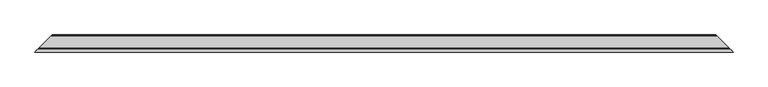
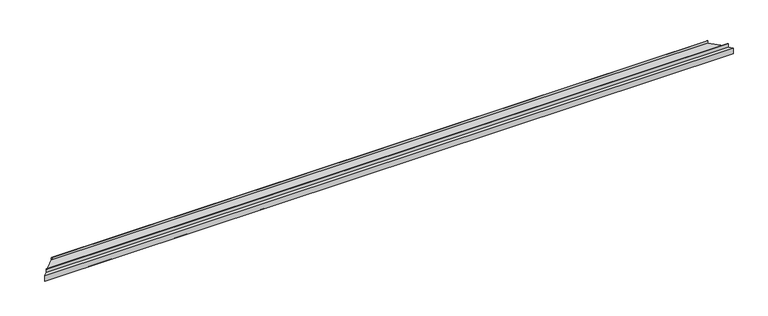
"""IFC4 building model written with IfcOpenShell, lengths in millimetres: proxy geometry, АК1_1 Примыкание к фундаментной балке : АК1_1 Примыкание к фундаментной балке."""

import ifcopenshell
import ifcopenshell.guid

model = None  # the IFC model being written
_history = None  # IfcOwnerHistory: only IFC2X3 demands one
_inside = {}  # id of a spatial element -> (the spatial element, [elements in it])
_under = {}  # id of a project, library or spatial element -> (it, [spatial elements below it])
_declared = {}  # id of a project -> (the project, [libraries it declares])
_typed = {}  # id of a type object -> (the type object, [elements of that type])
_made_of = {}  # id of a material, layer set ... -> (it, [elements and type objects made of it])


def new_model(schema):
    """Start an empty IFC model of exactly this schema.

    Asked for "IFC4X3", IfcOpenShell would pick the latest addendum, in which some entities
    have other attributes; the version numbers below select the first issue.
    IFC2X3 requires an IfcOwnerHistory on every rooted entity: one is made here for all.
    """
    global model, _history
    if schema == "IFC4X3":
        model = ifcopenshell.file(schema_version=(4, 3, 0, 0))
    else:
        model = ifcopenshell.file(schema=schema)
    _inside.clear()
    _under.clear()
    _declared.clear()
    _typed.clear()
    _made_of.clear()
    _history = None
    if model.schema == "IFC2X3":
        org = make("IfcOrganization", Name="unknown")
        user = make(
            "IfcPersonAndOrganization",
            ThePerson=make("IfcPerson", FamilyName="unknown"),
            TheOrganization=org,
        )
        app = make(
            "IfcApplication",
            ApplicationDeveloper=org,
            Version="unknown",
            ApplicationFullName="unknown",
            ApplicationIdentifier="unknown",
        )
        _history = make(
            "IfcOwnerHistory",
            OwningUser=user,
            OwningApplication=app,
            ChangeAction="ADDED",
            CreationDate=0,
        )
    return model


def make(cls, **values):
    """One entity of the class cls with the attributes given. An attribute that is None is left unset."""
    return model.create_entity(
        cls, **{name: value for name, value in values.items() if value is not None}
    )


def rooted(cls, **values):
    """An entity with a GlobalId (a new one), such as an element, a storey or a relation."""
    return make(cls, GlobalId=ifcopenshell.guid.new(), OwnerHistory=_history, **values)


def si_unit(unit_type, name, prefix=None):
    """IfcSIUnit, for example si_unit("LENGTHUNIT", "METRE", prefix="MILLI")."""
    return make("IfcSIUnit", UnitType=unit_type, Prefix=prefix, Name=name)


def assignment(units):
    """IfcUnitAssignment: the units of a project."""
    return None if units is None else make("IfcUnitAssignment", Units=units)


def point(xyz):
    """IfcCartesianPoint."""
    return None if xyz is None else make("IfcCartesianPoint", Coordinates=xyz)


def direction(xyz):
    """IfcDirection."""
    return None if xyz is None else make("IfcDirection", DirectionRatios=xyz)


def frame(location, z_axis=None, x_axis=None):
    """IfcAxis2Placement3D, a coordinate frame: its origin and axes. An axis left out is left unset."""
    return make(
        "IfcAxis2Placement3D",
        Location=point(location),
        Axis=direction(z_axis),
        RefDirection=direction(x_axis),
    )


def origin():
    """The frame at (0, 0, 0) with its axes left unset."""
    return frame((0.0, 0.0, 0.0))


def place(relative_to, where):
    """IfcLocalPlacement: puts the frame where relative to a parent placement (None: the world)."""
    return make(
        "IfcLocalPlacement", PlacementRelTo=relative_to, RelativePlacement=where
    )


def context(
    kind, dimensions, precision=None, world=None, true_north=None, identifier=None
):
    """IfcGeometricRepresentationContext, for example the 3D "Model" context."""
    return make(
        "IfcGeometricRepresentationContext",
        ContextIdentifier=identifier,
        ContextType=kind,
        CoordinateSpaceDimension=dimensions,
        Precision=precision,
        WorldCoordinateSystem=world,
        TrueNorth=true_north,
    )


def project(units=None, contexts=None):
    """IfcProject with its units and contexts."""
    return rooted(
        "IfcProject",
        Name="project",
        RepresentationContexts=contexts,
        UnitsInContext=assignment(units),
    )


def spatial(cls, under=None, at=None, **own):
    """A site, building, storey or space (cls), placed at a placement, below another one or the project."""
    s = rooted(cls, ObjectPlacement=at, **own)
    if under is not None:
        _under.setdefault(under.id(), (under, []))[1].append(s)
    return s


def faces_of(points, faces, orient=None, outer=None):
    """IfcFace entities. A face is a list of loops; a loop is a list of indices into points, from 0.

    orient and outer hold one flag for each loop. By default every Orientation is true, the
    first loop of a face is its IfcFaceOuterBound and the others are IfcFaceBound.
    """
    made = []
    for i, loops in enumerate(faces):
        bounds = []
        for j, loop in enumerate(loops):
            is_outer = j == 0 if outer is None else outer[i][j]
            bounds.append(
                make(
                    "IfcFaceOuterBound" if is_outer else "IfcFaceBound",
                    Bound=make("IfcPolyLoop", Polygon=[points[k] for k in loop]),
                    Orientation=True if orient is None else orient[i][j],
                )
            )
        made.append(make("IfcFace", Bounds=bounds))
    return made


def faceted_brep(points, faces, orient=None, outer=None, voids=None):
    """IfcFacetedBrep: a solid bounded by flat faces; with voids (closed shells), ...WithVoids."""
    shared = [point(p) for p in points]
    hull = make("IfcClosedShell", CfsFaces=faces_of(shared, faces, orient, outer))
    if voids is None:
        return make("IfcFacetedBrep", Outer=hull)
    return make(
        "IfcFacetedBrepWithVoids",
        Outer=hull,
        Voids=[
            make(cls, CfsFaces=faces_of(shared, fs, o, b)) for cls, fs, o, b in voids
        ],
    )


def shape(context_of_items, identifier, shape_type, items):
    """IfcShapeRepresentation: the items that make up one representation, for example the "Body"."""
    return make(
        "IfcShapeRepresentation",
        ContextOfItems=context_of_items,
        RepresentationIdentifier=identifier,
        RepresentationType=shape_type,
        Items=items,
    )


def source(mapping_origin, context_of_items, identifier, shape_type, items):
    """IfcRepresentationMap: a shape defined once, which mapped items show again and again."""
    return make(
        "IfcRepresentationMap",
        MappingOrigin=mapping_origin,
        MappedRepresentation=shape(context_of_items, identifier, shape_type, items),
    )


def transform(
    local_origin,
    x_axis=None,
    y_axis=None,
    z_axis=None,
    scale=None,
    scale2=None,
    scale3=None,
    uniform=True,
):
    """IfcCartesianTransformationOperator3D, or its non-uniform kind. x_axis, y_axis, z_axis: its Axis1, 2, 3."""
    if uniform:
        return make(
            "IfcCartesianTransformationOperator3D",
            Axis1=direction(x_axis),
            Axis2=direction(y_axis),
            LocalOrigin=point(local_origin),
            Scale=scale,
            Axis3=direction(z_axis),
        )
    return make(
        "IfcCartesianTransformationOperator3DnonUniform",
        Axis1=direction(x_axis),
        Axis2=direction(y_axis),
        LocalOrigin=point(local_origin),
        Scale=scale,
        Axis3=direction(z_axis),
        Scale2=scale2,
        Scale3=scale3,
    )


def mapped(mapping_source, mapping_target):
    """IfcMappedItem: shows the shape of a source again, moved by a transform."""
    return make(
        "IfcMappedItem", MappingSource=mapping_source, MappingTarget=mapping_target
    )


def made_of(thing, what):
    """Note that an element or type object is made of a material, layer set ...; save() writes the relation."""
    if what is not None:
        _made_of.setdefault(what.id(), (what, []))[1].append(thing)
    return thing


def element(
    cls,
    number,
    at=None,
    inside=None,
    cuts=None,
    type_object=None,
    material=None,
    context=None,
    identifier="Body",
    shape_type=None,
    held_by="IfcProductDefinitionShape",
    body=None,
    shapes=None,
    **own,
):
    """One element of the class cls, such as IfcWall. Its Tag is "e" and its number.

    at: its placement. inside: the storey or other place that contains it. cuts: it is an
    opening in that element (IfcRelVoidsElement). A single representation is given by context,
    identifier, shape_type and body (its items); several are given by shapes. held_by: the class
    of the entity that holds the representations. save() writes the other relations.
    """
    e = rooted(cls, Tag="e%d" % number, ObjectPlacement=at, **own)
    if body is not None:
        shapes = [shape(context, identifier, shape_type, body)]
    if shapes is not None:
        e.Representation = make(held_by, Representations=shapes)
    if inside is not None:
        _inside.setdefault(inside.id(), (inside, []))[1].append(e)
    if cuts is not None:
        rooted(
            "IfcRelVoidsElement", RelatingBuildingElement=cuts, RelatedOpeningElement=e
        )
    if type_object is not None:
        _typed.setdefault(type_object.id(), (type_object, []))[1].append(e)
    return made_of(e, material)


def aggregate(whole, parts):
    """IfcRelAggregates: a whole, such as a stair, and the parts it consists of."""
    return rooted("IfcRelAggregates", RelatingObject=whole, RelatedObjects=parts)


def save(model, path):
    """Write the relations noted so far, then the file.

    IfcRelAggregates (storeys below a building ...), IfcRelContainedInSpatialStructure (elements
    in a storey), IfcRelDefinesByType, IfcRelAssociatesMaterial and IfcRelDeclares: one each for
    every whole, place, type object, material and project.
    """
    for whole, parts in _under.values():
        aggregate(whole, parts)
    for where, things in _inside.values():
        rooted(
            "IfcRelContainedInSpatialStructure",
            RelatedElements=things,
            RelatingStructure=where,
        )
    for kind, things in _typed.values():
        rooted("IfcRelDefinesByType", RelatedObjects=things, RelatingType=kind)
    for what, things in _made_of.values():
        rooted("IfcRelAssociatesMaterial", RelatedObjects=things, RelatingMaterial=what)
    for by, libraries in _declared.values():
        rooted("IfcRelDeclares", RelatingContext=by, RelatedDefinitions=libraries)
    model.write(path)


def generic_models_e590158f(model_context):
    return source(origin(), model_context, "Body", "Brep", [
        faceted_brep([(116.5, 116.5, 9.0), (120.7449534, 120.7449534, 17.660254), (6119.2550466, 120.7449534, 17.660254), (6123.5, 116.5, 9.0), (1.5, 1.5, 9.0), (6238.5, 1.5, 9.0), (0.0, 0.0, 6.4019238), (6240.0, 0.0, 6.4019238), (6253.5, -13.5, -16.9807621), (-13.5, -13.5, -16.9807621), (-14.3660254, -14.3660254, -16.4807621), (6254.3660254, -14.3660254, -16.4807621), (0.9226497, 0.9226497, 10.0), (0.0, 0.0, 8.4019238), (6240.0, 0.0, 8.4019238), (6239.0773503, 0.9226497, 10.0), (115.9226497, 115.9226497, 10.0), (6124.0773503, 115.9226497, 10.0), (119.8842356, 119.8842356, 18.0821477), (6120.1157644, 119.8842356, 18.0821477)], [[[0, 1, 2, 3]], [[4, 0, 3, 5]], [[6, 4, 5, 7, 8, 9]], [[10, 9, 8, 11]], [[12, 13, 10, 11, 14, 15]], [[16, 12, 15, 17]], [[18, 16, 17, 19]], [[1, 18, 19, 2]], [[6, 13, 12, 16, 18, 1, 0, 4]], [[13, 6, 9, 10]], [[14, 7, 5, 3, 2, 19, 17, 15]], [[7, 14, 11, 8]]]),
        faceted_brep([(-4.5, -4.5, 33.6294353), (-4.5, -4.5, 3.6294353), (6244.5, -4.5, 3.6294353), (6244.5, -4.5, 33.6294353), (-3.5, -3.5, 33.6294353), (6243.5, -3.5, 33.6294353), (-3.5, -3.5, 2.7903356), (6243.5, -3.5, 2.7903356), (-33.0442326, -33.0442326, -2.4191097), (6273.0442326, -33.0442326, -2.4191097), (-33.0442326, -33.0442326, -49.1657965), (6273.0442326, -33.0442326, -49.1657965), (-20.6092037, -20.6092037, -36.7307676), (6260.6092037, -20.6092037, -36.7307676), (-19.902097, -19.902097, -37.4378744), (6259.902097, -19.902097, -37.4378744), (-34.0442326, -34.0442326, -51.58001), (6274.0442326, -34.0442326, -51.58001), (-34.0442326, -34.0442326, -1.58001), (6274.0442326, -34.0442326, -1.58001)], [[[0, 1, 2, 3]], [[4, 0, 3, 5]], [[6, 4, 5, 7]], [[8, 6, 7, 9]], [[10, 8, 9, 11]], [[12, 10, 11, 13]], [[14, 12, 13, 15]], [[16, 14, 15, 17]], [[18, 16, 17, 19]], [[1, 18, 19, 2]], [[1, 0, 4, 6, 8, 10, 12, 14, 16, 18]], [[3, 2, 19, 17, 15, 13, 11, 9, 7, 5]]]),
        faceted_brep([(-3.5, -3.5, 35.0), (-3.5, -3.5, 10.0), (6243.5, -3.5, 10.0), (6243.5, -3.5, 35.0), (-1.5, -1.5, 35.0), (6241.5, -1.5, 35.0), (-1.5, -1.5, 12.0), (6241.5, -1.5, 12.0), (112.5, 112.5, 12.0), (0.0, 0.0, 12.0), (6240.0, 0.0, 12.0), (6127.5, 112.5, 12.0), (112.5, 112.5, 35.0), (6127.5, 112.5, 35.0), (114.5, 114.5, 35.0), (6125.5, 114.5, 35.0), (114.5, 114.5, 10.0), (6125.5, 114.5, 10.0), (0.0, 0.0, 10.0), (6240.0, 0.0, 10.0)], [[[0, 1, 2, 3]], [[4, 0, 3, 5]], [[6, 4, 5, 7]], [[8, 9, 6, 7, 10, 11]], [[12, 8, 11, 13]], [[14, 12, 13, 15]], [[16, 14, 15, 17]], [[18, 16, 17, 19, 2, 1]], [[9, 18, 1, 0, 4, 6]], [[19, 10, 7, 5, 3, 2]], [[18, 9, 8, 12, 14, 16]], [[10, 19, 17, 15, 13, 11]]]),
    ])


if __name__ == "__main__":
    model = new_model("IFC4")
    model_context = context("Model", 3, world=origin())
    ifc_project = project(units=[si_unit("LENGTHUNIT", "METRE", prefix="MILLI")], contexts=[model_context])
    site = spatial("IfcSite", under=ifc_project)
    building = spatial("IfcBuilding", under=site)
    placement = place(None, origin())
    generic_models_shape = generic_models_e590158f(model_context)
    element("IfcBuildingElementProxy", 1, Name="АК1_1 Примыкание к фундаментной балке : АК1_1 Примыкание к фундаментной балке", ObjectType="АК1_1 Примыкание к фундаментной балке : АК1_1 Примыкание к фундаментной балке", at=placement, inside=building, context=model_context, shape_type="MappedRepresentation", body=[
        mapped(generic_models_shape, transform((0.0, 0.0, 0.0), x_axis=(1.0, 0.0, 0.0), y_axis=(0.0, 1.0, 0.0), z_axis=(0.0, 0.0, 1.0))),
    ])
    save(model, "model.ifc")
